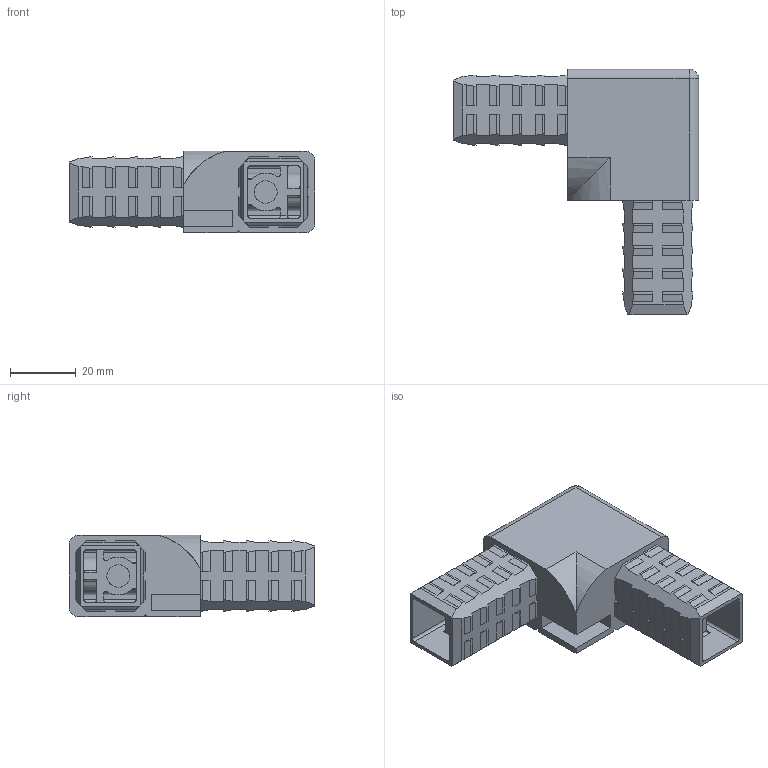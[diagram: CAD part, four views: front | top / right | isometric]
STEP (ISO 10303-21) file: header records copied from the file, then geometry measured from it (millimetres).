
FILE_DESCRIPTION (( 'STEP AP214' ), '1' );
FILE_NAME ('L15840 impression3D.step', '2024-12-03T16:19:43', ( '' ), ( '' ), 'SwSTEP 2.0', 'SolidWorks 2023', '' );
FILE_SCHEMA (( 'AUTOMOTIVE_DESIGN' ));
Length unit declared in the file: millimetre
Products named in the file (1): L15840 impression3D
Bounding box: 75 x 75 x 25 mm (x, y, z)
Volume: 44068.1 mm3; surface area: 27651.2 mm2
Topology: 1 solids, 5 shells, 546 faces, 1577 edges, 1039 vertices
Faces by surface type: plane 475, cylinder 67, sphere 2, cone 2
Full cylindrical faces by diameter (mm): 7 x4
Entity records: 17625 total; most frequent: CARTESIAN_POINT 3360, ORIENTED_EDGE 3138, DIRECTION 2687, EDGE_CURVE 1569, LINE 1443, VECTOR 1443, VERTEX_POINT 1037, AXIS2_PLACEMENT_3D 622
